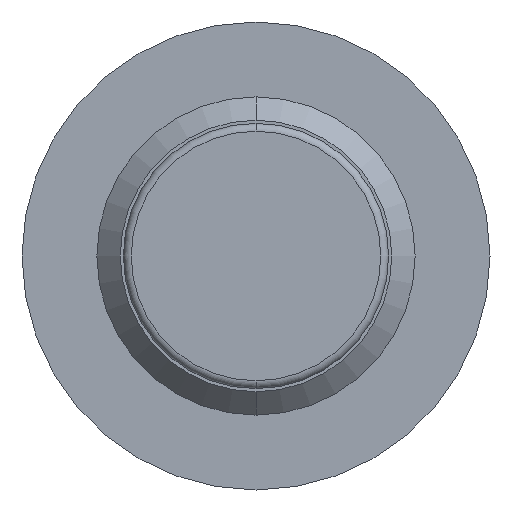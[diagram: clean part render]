
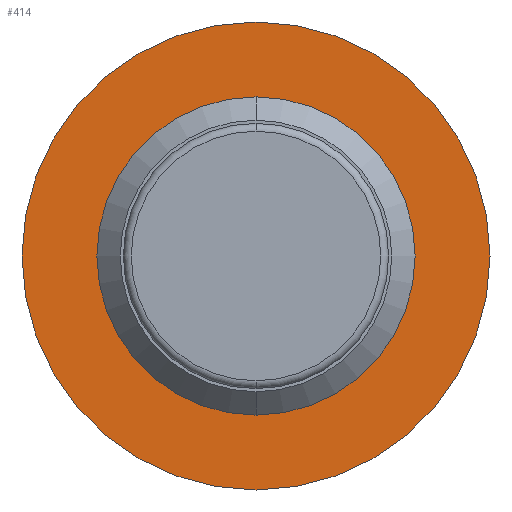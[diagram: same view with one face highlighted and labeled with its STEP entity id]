
A CAD part, front view. The second image highlights one B-rep face of the part: STEP entity #414.
In plain terms, the highlighted planar face has unit normal (0, -1, 0).
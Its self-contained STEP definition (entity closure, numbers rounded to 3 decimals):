
#67=CARTESIAN_POINT('',(0.,6.4,0.));
#68=DIRECTION('',(0.,1.,0.));
#69=DIRECTION('',(0.,0.,-1.));
#70=AXIS2_PLACEMENT_3D('',#67,#68,#69);
#72=CARTESIAN_POINT('',(0.,6.4,0.));
#73=DIRECTION('',(0.,-1.,0.));
#74=DIRECTION('',(0.,0.,-1.));
#75=AXIS2_PLACEMENT_3D('',#72,#73,#74);
#77=CARTESIAN_POINT('',(0.,6.4,0.));
#78=DIRECTION('',(0.,-1.,0.));
#79=DIRECTION('',(0.,0.,-1.));
#80=AXIS2_PLACEMENT_3D('',#77,#78,#79);
#82=CARTESIAN_POINT('',(0.,6.4,0.));
#83=DIRECTION('',(0.,1.,0.));
#84=DIRECTION('',(0.,0.,-1.));
#85=AXIS2_PLACEMENT_3D('',#82,#83,#84);
#209=CARTESIAN_POINT('',(0.,6.4,-1.02));
#210=VERTEX_POINT('',#209);
#211=CARTESIAN_POINT('',(0.,6.4,-1.5));
#213=VERTEX_POINT('',#211);
#233=CARTESIAN_POINT('',(0.,6.4,1.02));
#234=VERTEX_POINT('',#233);
#235=CARTESIAN_POINT('',(0.,6.4,1.5));
#237=VERTEX_POINT('',#235);
#399=CARTESIAN_POINT('',(0.,6.4,0.));
#400=DIRECTION('',(0.,-1.,0.));
#401=DIRECTION('',(0.,0.,1.));
#402=AXIS2_PLACEMENT_3D('',#399,#400,#401);
#403=PLANE('',#402);
#404=ORIENTED_EDGE('',*,*,#381,.T.);
#405=ORIENTED_EDGE('',*,*,#392,.F.);
#406=EDGE_LOOP('',(#404,#405));
#407=FACE_OUTER_BOUND('',#406,.F.);
#409=ORIENTED_EDGE('',*,*,#408,.T.);
#411=ORIENTED_EDGE('',*,*,#410,.F.);
#412=EDGE_LOOP('',(#409,#411));
#413=FACE_BOUND('',#412,.F.);
#414=ADVANCED_FACE('',(#407,#413),#403,.T.);
#71=CIRCLE('',#70,1.5);
#76=CIRCLE('',#75,1.5);
#81=CIRCLE('',#80,1.02);
#86=CIRCLE('',#85,1.02);
#381=EDGE_CURVE('',#213,#237,#71,.T.);
#392=EDGE_CURVE('',#213,#237,#76,.T.);
#408=EDGE_CURVE('',#210,#234,#81,.T.);
#410=EDGE_CURVE('',#210,#234,#86,.T.);
